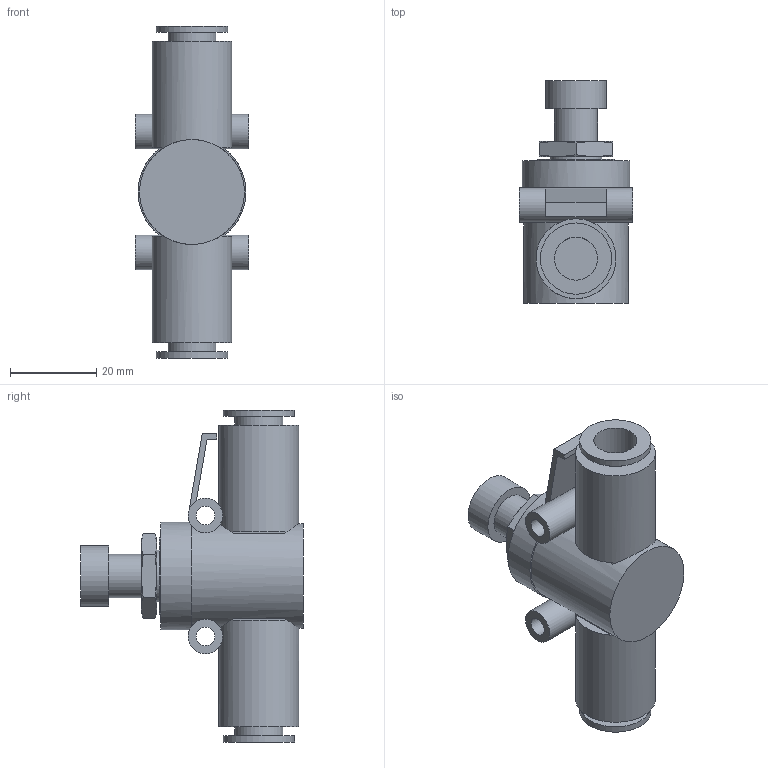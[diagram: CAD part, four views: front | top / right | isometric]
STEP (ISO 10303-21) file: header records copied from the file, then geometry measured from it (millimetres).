
FILE_DESCRIPTION(/* description */ ('STEP AP214'),/* implementation_level */ '2;1');
FILE_NAME(/* name */ 'AS4002F-10',/* time_stamp */ '2024-10-24T14:13:22+02:00',/* author */ ('License CC BY-ND 4.0'),/* organization */ ('CADENAS'),/* preprocessor_version */ 'ST-DEVELOPER v19.3',/* originating_system */ 'PARTsolutions',/* authorisation */ ' ');
FILE_SCHEMA (('AUTOMOTIVE_DESIGN {1 0 10303 214 3 1 1}'));
Length unit declared in the file: millimetre
Products named in the file (1): AS4002F-10
Bounding box: 26.2 x 51.6 x 76.9 mm (x, y, z)
Volume: 30557.9 mm3; surface area: 11953.5 mm2
Topology: 1 solids, 1 shells, 62 faces, 139 edges, 92 vertices
Faces by surface type: plane 42, cylinder 18, cone 2
Full cylindrical faces by diameter (mm): 4.3 x2, 8 x2, 10 x3, 11.1 x2, 12 x1, 14 x1, 16.5 x2, 18 x1, 18.5 x2, 24.3 x1, 25 x1
Entity records: 1717 total; most frequent: CARTESIAN_POINT 420, DIRECTION 256, ORIENTED_EDGE 224, EDGE_CURVE 112, AXIS2_PLACEMENT_3D 107, EDGE_LOOP 100, FACE_BOUND 100, VERTEX_POINT 86
